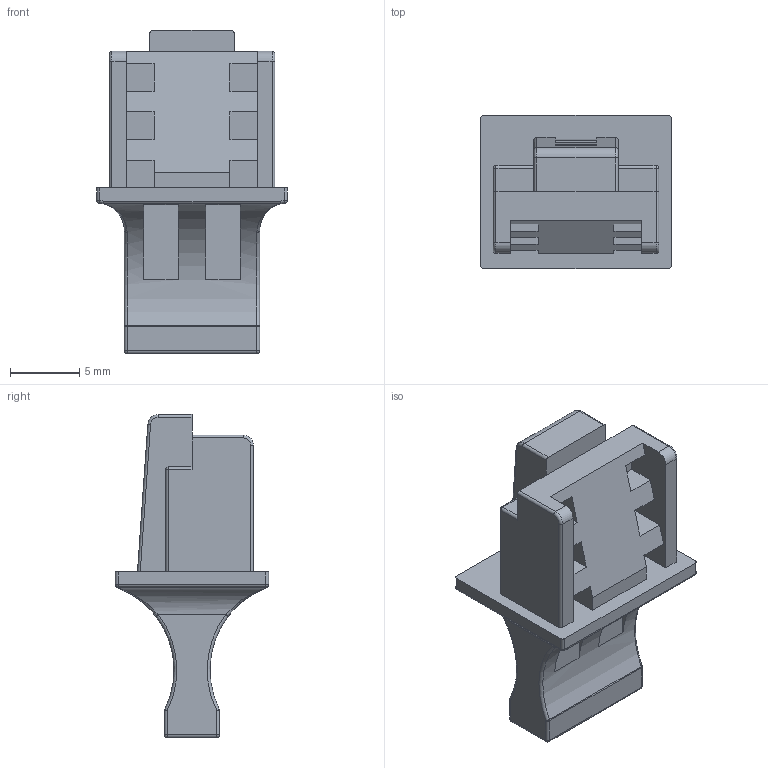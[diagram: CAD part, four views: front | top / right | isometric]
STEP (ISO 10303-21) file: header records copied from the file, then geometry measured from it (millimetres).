
FILE_DESCRIPTION((''),'2;1');
FILE_NAME('PRT0003','2020-05-09T',('czt20386'),(''),'CREO PARAMETRIC BY PTC INC, 2017480','CREO PARAMETRIC BY PTC INC, 2017480','');
FILE_SCHEMA(('CONFIG_CONTROL_DESIGN'));
Length unit declared in the file: millimetre
Products named in the file (1): PRT0003
Bounding box: 13.8 x 11.1 x 23.4 mm (x, y, z)
Volume: 1146.9 mm3; surface area: 1436.8 mm2
Topology: 1 solids, 1 shells, 155 faces, 370 edges, 224 vertices
Faces by surface type: plane 82, cylinder 39, sphere 18, torus 12, bspline 4
Entity records: 4744 total; most frequent: CARTESIAN_POINT 1075, DIRECTION 778, ORIENTED_EDGE 740, EDGE_CURVE 370, AXIS2_PLACEMENT_3D 267, VECTOR 244, LINE 244, VERTEX_POINT 224
